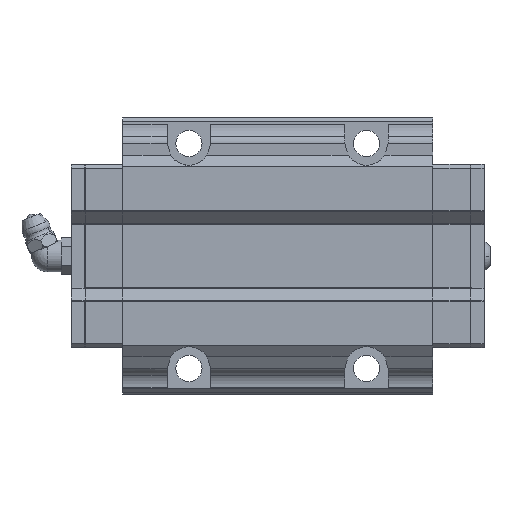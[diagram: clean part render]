
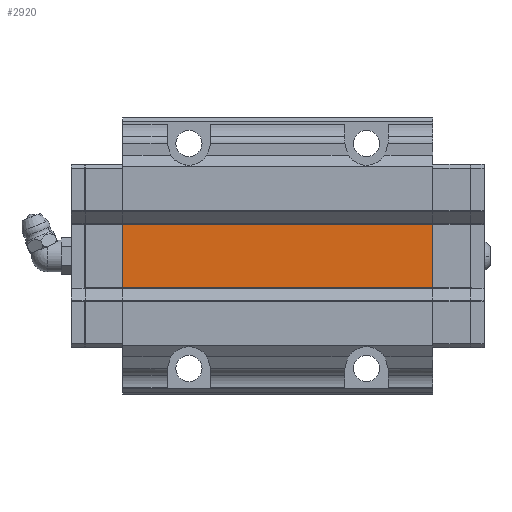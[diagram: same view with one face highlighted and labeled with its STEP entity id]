
A CAD part, front view. The second image highlights one B-rep face of the part: STEP entity #2920.
In plain terms, the highlighted planar face has unit normal (0, -1, 0).
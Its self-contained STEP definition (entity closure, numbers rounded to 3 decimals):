
#597 = EDGE_CURVE ( 'NONE', #9486, #5161, #12869, .T. ) ;
#816 = DIRECTION ( 'NONE',  ( 1., 0., 0. ) ) ;
#1748 = DIRECTION ( 'NONE',  ( 1., 0., 0. ) ) ;
#2321 = DIRECTION ( 'NONE',  ( 0., 1., 0. ) ) ;
#2530 = ORIENTED_EDGE ( 'NONE', *, *, #7121, .T. ) ;
#2824 = VECTOR ( 'NONE', #1748, 1000. ) ;
#2920 = ADVANCED_FACE ( 'NONE', ( #3197 ), #10938, .F. ) ;
#3197 = FACE_OUTER_BOUND ( 'NONE', #5851, .T. ) ;
#3338 = CARTESIAN_POINT ( 'NONE',  ( 48.8, 0., -11.5 ) ) ;
#4737 = LINE ( 'NONE', #9090, #8440 ) ;
#4824 = ORIENTED_EDGE ( 'NONE', *, *, #11965, .T. ) ;
#5161 = VERTEX_POINT ( 'NONE', #11332 ) ;
#5389 = CARTESIAN_POINT ( 'NONE',  ( -39.3, 0., 8.05 ) ) ;
#5487 = CARTESIAN_POINT ( 'NONE',  ( -52.3, 0., -8.05 ) ) ;
#5526 = AXIS2_PLACEMENT_3D ( 'NONE', #3338, #2321, #11225 ) ;
#5777 = LINE ( 'NONE', #7445, #11927 ) ;
#5851 = EDGE_LOOP ( 'NONE', ( #11699, #2530, #4824, #10418 ) ) ;
#6611 = VERTEX_POINT ( 'NONE', #12334 ) ;
#6620 = EDGE_CURVE ( 'NONE', #8571, #9486, #4737, .T. ) ;
#7121 = EDGE_CURVE ( 'NONE', #8571, #6611, #13156, .T. ) ;
#7191 = VECTOR ( 'NONE', #816, 1000. ) ;
#7445 = CARTESIAN_POINT ( 'NONE',  ( 39.3, 0., -5.75 ) ) ;
#8440 = VECTOR ( 'NONE', #10169, 1000. ) ;
#8571 = VERTEX_POINT ( 'NONE', #11632 ) ;
#9090 = CARTESIAN_POINT ( 'NONE',  ( -39.3, 0., -5.75 ) ) ;
#9486 = VERTEX_POINT ( 'NONE', #5389 ) ;
#10169 = DIRECTION ( 'NONE',  ( 0., 0., 1. ) ) ;
#10418 = ORIENTED_EDGE ( 'NONE', *, *, #597, .F. ) ;
#10938 = PLANE ( 'NONE',  #5526 ) ;
#11225 = DIRECTION ( 'NONE',  ( -1., 0., 0. ) ) ;
#11332 = CARTESIAN_POINT ( 'NONE',  ( 39.3, 0., 8.05 ) ) ;
#11632 = CARTESIAN_POINT ( 'NONE',  ( -39.3, 0., -8.05 ) ) ;
#11638 = DIRECTION ( 'NONE',  ( 0., 0., 1. ) ) ;
#11699 = ORIENTED_EDGE ( 'NONE', *, *, #6620, .F. ) ;
#11927 = VECTOR ( 'NONE', #11638, 1000. ) ;
#11965 = EDGE_CURVE ( 'NONE', #6611, #5161, #5777, .T. ) ;
#12334 = CARTESIAN_POINT ( 'NONE',  ( 39.3, 0., -8.05 ) ) ;
#12869 = LINE ( 'NONE', #13797, #2824 ) ;
#13156 = LINE ( 'NONE', #5487, #7191 ) ;
#13797 = CARTESIAN_POINT ( 'NONE',  ( -52.3, 0., 8.05 ) ) ;
